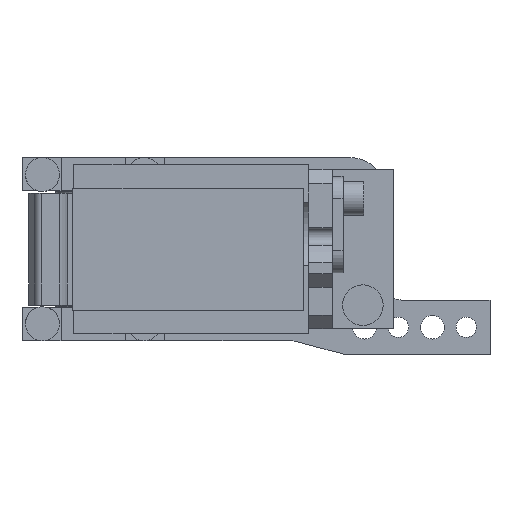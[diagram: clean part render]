
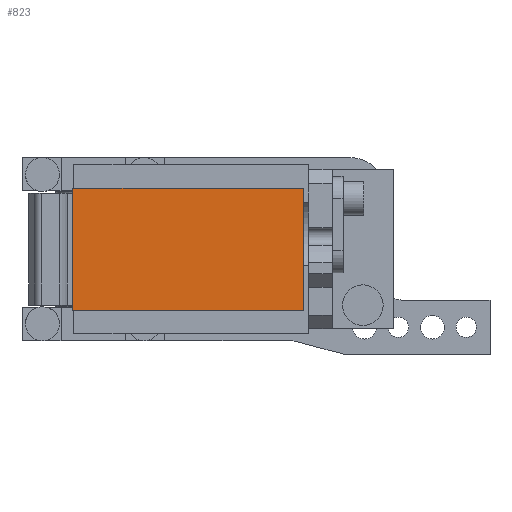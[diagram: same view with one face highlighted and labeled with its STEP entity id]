
A CAD part, front view. The second image highlights one B-rep face of the part: STEP entity #823.
In plain terms, the highlighted planar face has unit normal (0, -1, 0).
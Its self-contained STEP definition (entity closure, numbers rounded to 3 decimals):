
#467 = LINE ( 'NONE', #10061, #5452 ) ;
#823 = ADVANCED_FACE ( 'NONE', ( #6182 ), #6378, .T. ) ;
#856 = CARTESIAN_POINT ( 'NONE',  ( 62., -233., -18. ) ) ;
#1010 = VECTOR ( 'NONE', #2656, 1000. ) ;
#1097 = ORIENTED_EDGE ( 'NONE', *, *, #10914, .T. ) ;
#1533 = VECTOR ( 'NONE', #9104, 1000. ) ;
#1886 = EDGE_CURVE ( 'NONE', #9846, #7171, #13330, .T. ) ;
#1909 = DIRECTION ( 'NONE',  ( 0., -1., 0. ) ) ;
#2518 = AXIS2_PLACEMENT_3D ( 'NONE', #11737, #1909, #12845 ) ;
#2656 = DIRECTION ( 'NONE',  ( -1., 0., 0. ) ) ;
#3367 = LINE ( 'NONE', #8541, #4771 ) ;
#4771 = VECTOR ( 'NONE', #11773, 1000. ) ;
#4806 = CARTESIAN_POINT ( 'NONE',  ( -6., -233., 18. ) ) ;
#4838 = EDGE_CURVE ( 'NONE', #10286, #12466, #467, .T. ) ;
#5452 = VECTOR ( 'NONE', #7828, 1000. ) ;
#5838 = CARTESIAN_POINT ( 'NONE',  ( -6., -233., 18. ) ) ;
#6182 = FACE_OUTER_BOUND ( 'NONE', #12654, .T. ) ;
#6378 = PLANE ( 'NONE',  #2518 ) ;
#6642 = ORIENTED_EDGE ( 'NONE', *, *, #4838, .T. ) ;
#6784 = CARTESIAN_POINT ( 'NONE',  ( 62., -233., 18. ) ) ;
#7171 = VERTEX_POINT ( 'NONE', #11105 ) ;
#7695 = EDGE_CURVE ( 'NONE', #7171, #10286, #3367, .T. ) ;
#7828 = DIRECTION ( 'NONE',  ( 0., 0., 1. ) ) ;
#8182 = CARTESIAN_POINT ( 'NONE',  ( -6., -233., 18. ) ) ;
#8541 = CARTESIAN_POINT ( 'NONE',  ( -6., -233., -18. ) ) ;
#8945 = ORIENTED_EDGE ( 'NONE', *, *, #1886, .T. ) ;
#9104 = DIRECTION ( 'NONE',  ( 0., 0., -1. ) ) ;
#9846 = VERTEX_POINT ( 'NONE', #5838 ) ;
#10061 = CARTESIAN_POINT ( 'NONE',  ( 62., -233., 18. ) ) ;
#10286 = VERTEX_POINT ( 'NONE', #856 ) ;
#10914 = EDGE_CURVE ( 'NONE', #12466, #9846, #12258, .T. ) ;
#11105 = CARTESIAN_POINT ( 'NONE',  ( -6., -233., -18. ) ) ;
#11737 = CARTESIAN_POINT ( 'NONE',  ( 0., -233., 0. ) ) ;
#11773 = DIRECTION ( 'NONE',  ( 1., 0., 0. ) ) ;
#12258 = LINE ( 'NONE', #8182, #1010 ) ;
#12466 = VERTEX_POINT ( 'NONE', #6784 ) ;
#12654 = EDGE_LOOP ( 'NONE', ( #8945, #13264, #6642, #1097 ) ) ;
#12845 = DIRECTION ( 'NONE',  ( 0., 0., -1. ) ) ;
#13264 = ORIENTED_EDGE ( 'NONE', *, *, #7695, .T. ) ;
#13330 = LINE ( 'NONE', #4806, #1533 ) ;
